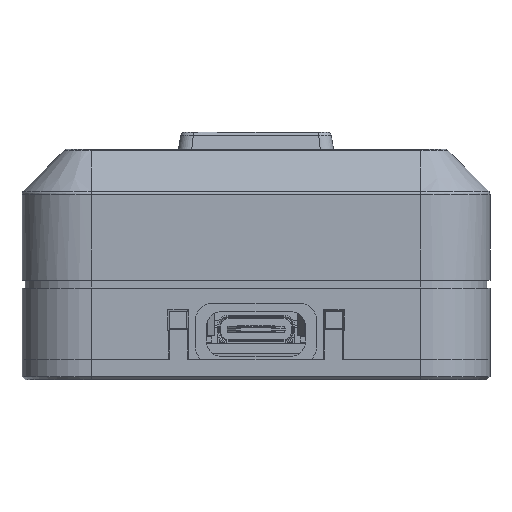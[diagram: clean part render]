
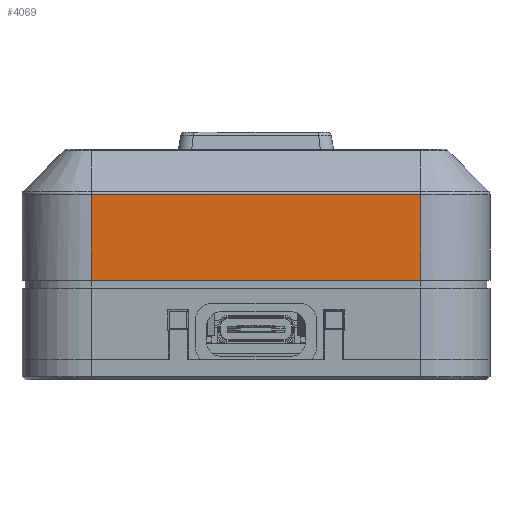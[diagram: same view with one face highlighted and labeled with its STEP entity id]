
A CAD part, front view. The second image highlights one B-rep face of the part: STEP entity #4069.
In plain terms, the highlighted planar face has unit normal (0, -1, 0).
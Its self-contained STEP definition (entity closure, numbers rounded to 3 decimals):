
#2156 = CYLINDRICAL_SURFACE('',#2157,0.5);
#2157 = AXIS2_PLACEMENT_3D('',#2158,#2159,#2160);
#2158 = CARTESIAN_POINT('',(19.,-23.5,21.393));
#2159 = DIRECTION('',(-1.,-0.,-0.));
#2160 = DIRECTION('',(0.,-1.,0.));
#3014 = VERTEX_POINT('',#3015);
#3015 = CARTESIAN_POINT('',(19.,-24.,21.393));
#3056 = CYLINDRICAL_SURFACE('',#3057,8.);
#3057 = AXIS2_PLACEMENT_3D('',#3058,#3059,#3060);
#3058 = CARTESIAN_POINT('',(19.,-16.,2.4));
#3059 = DIRECTION('',(0.,0.,1.));
#3060 = DIRECTION('',(1.,0.,-0.));
#3135 = VERTEX_POINT('',#3136);
#3136 = CARTESIAN_POINT('',(-19.,-24.,21.393));
#3160 = EDGE_CURVE('',#3014,#3135,#3161,.T.);
#3161 = SURFACE_CURVE('',#3162,(#3166,#3173),.PCURVE_S1.);
#3162 = LINE('',#3163,#3164);
#3163 = CARTESIAN_POINT('',(19.,-24.,21.393));
#3164 = VECTOR('',#3165,1.);
#3165 = DIRECTION('',(-1.,-0.,-0.));
#3166 = PCURVE('',#2156,#3167);
#3167 = DEFINITIONAL_REPRESENTATION('',(#3168),#3172);
#3168 = LINE('',#3169,#3170);
#3169 = CARTESIAN_POINT('',(0.,0.));
#3170 = VECTOR('',#3171,1.);
#3171 = DIRECTION('',(0.,1.));
#3172 = ( GEOMETRIC_REPRESENTATION_CONTEXT(2) 
PARAMETRIC_REPRESENTATION_CONTEXT() REPRESENTATION_CONTEXT('2D SPACE',''
  ) );
#3173 = PCURVE('',#3174,#3179);
#3174 = PLANE('',#3175);
#3175 = AXIS2_PLACEMENT_3D('',#3176,#3177,#3178);
#3176 = CARTESIAN_POINT('',(-27.,-24.,2.4));
#3177 = DIRECTION('',(0.,1.,0.));
#3178 = DIRECTION('',(0.,0.,1.));
#3179 = DEFINITIONAL_REPRESENTATION('',(#3180),#3184);
#3180 = LINE('',#3181,#3182);
#3181 = CARTESIAN_POINT('',(18.993,46.));
#3182 = VECTOR('',#3183,1.);
#3183 = DIRECTION('',(0.,-1.));
#3184 = ( GEOMETRIC_REPRESENTATION_CONTEXT(2) 
PARAMETRIC_REPRESENTATION_CONTEXT() REPRESENTATION_CONTEXT('2D SPACE',''
  ) );
#3301 = CYLINDRICAL_SURFACE('',#3302,8.);
#3302 = AXIS2_PLACEMENT_3D('',#3303,#3304,#3305);
#3303 = CARTESIAN_POINT('',(-19.,-16.,2.4));
#3304 = DIRECTION('',(0.,0.,1.));
#3305 = DIRECTION('',(-1.,-0.,0.));
#3973 = VERTEX_POINT('',#3974);
#3974 = CARTESIAN_POINT('',(19.,-24.,11.5));
#3989 = PLANE('',#3990);
#3990 = AXIS2_PLACEMENT_3D('',#3991,#3992,#3993);
#3991 = CARTESIAN_POINT('',(-27.5,-24.5,11.5));
#3992 = DIRECTION('',(0.,0.,1.));
#3993 = DIRECTION('',(1.,0.,0.));
#4001 = EDGE_CURVE('',#3973,#3014,#4002,.T.);
#4002 = SURFACE_CURVE('',#4003,(#4007,#4014),.PCURVE_S1.);
#4003 = LINE('',#4004,#4005);
#4004 = CARTESIAN_POINT('',(19.,-24.,2.4));
#4005 = VECTOR('',#4006,1.);
#4006 = DIRECTION('',(0.,0.,1.));
#4007 = PCURVE('',#3056,#4008);
#4008 = DEFINITIONAL_REPRESENTATION('',(#4009),#4013);
#4009 = LINE('',#4010,#4011);
#4010 = CARTESIAN_POINT('',(-1.571,0.));
#4011 = VECTOR('',#4012,1.);
#4012 = DIRECTION('',(-0.,1.));
#4013 = ( GEOMETRIC_REPRESENTATION_CONTEXT(2) 
PARAMETRIC_REPRESENTATION_CONTEXT() REPRESENTATION_CONTEXT('2D SPACE',''
  ) );
#4014 = PCURVE('',#3174,#4015);
#4015 = DEFINITIONAL_REPRESENTATION('',(#4016),#4020);
#4016 = LINE('',#4017,#4018);
#4017 = CARTESIAN_POINT('',(0.,46.));
#4018 = VECTOR('',#4019,1.);
#4019 = DIRECTION('',(1.,0.));
#4020 = ( GEOMETRIC_REPRESENTATION_CONTEXT(2) 
PARAMETRIC_REPRESENTATION_CONTEXT() REPRESENTATION_CONTEXT('2D SPACE',''
  ) );
#4069 = ADVANCED_FACE('',(#4070),#3174,.F.);
#4070 = FACE_BOUND('',#4071,.F.);
#4071 = EDGE_LOOP('',(#4072,#4093,#4114,#4115));
#4072 = ORIENTED_EDGE('',*,*,#4073,.F.);
#4073 = EDGE_CURVE('',#4074,#3973,#4076,.T.);
#4074 = VERTEX_POINT('',#4075);
#4075 = CARTESIAN_POINT('',(-19.,-24.,11.5));
#4076 = SURFACE_CURVE('',#4077,(#4081,#4087),.PCURVE_S1.);
#4077 = LINE('',#4078,#4079);
#4078 = CARTESIAN_POINT('',(-27.25,-24.,11.5));
#4079 = VECTOR('',#4080,1.);
#4080 = DIRECTION('',(1.,0.,0.));
#4081 = PCURVE('',#3174,#4082);
#4082 = DEFINITIONAL_REPRESENTATION('',(#4083),#4086);
#4083 = B_SPLINE_CURVE_WITH_KNOTS('',1,(#4084,#4085),.UNSPECIFIED.,.F.,
  .F.,(2,2),(8.25,46.25),.PIECEWISE_BEZIER_KNOTS.);
#4084 = CARTESIAN_POINT('',(9.1,8.));
#4085 = CARTESIAN_POINT('',(9.1,46.));
#4086 = ( GEOMETRIC_REPRESENTATION_CONTEXT(2) 
PARAMETRIC_REPRESENTATION_CONTEXT() REPRESENTATION_CONTEXT('2D SPACE',''
  ) );
#4087 = PCURVE('',#3989,#4088);
#4088 = DEFINITIONAL_REPRESENTATION('',(#4089),#4092);
#4089 = B_SPLINE_CURVE_WITH_KNOTS('',1,(#4090,#4091),.UNSPECIFIED.,.F.,
  .F.,(2,2),(8.25,46.25),.PIECEWISE_BEZIER_KNOTS.);
#4090 = CARTESIAN_POINT('',(8.5,0.5));
#4091 = CARTESIAN_POINT('',(46.5,0.5));
#4092 = ( GEOMETRIC_REPRESENTATION_CONTEXT(2) 
PARAMETRIC_REPRESENTATION_CONTEXT() REPRESENTATION_CONTEXT('2D SPACE',''
  ) );
#4093 = ORIENTED_EDGE('',*,*,#4094,.T.);
#4094 = EDGE_CURVE('',#4074,#3135,#4095,.T.);
#4095 = SURFACE_CURVE('',#4096,(#4100,#4107),.PCURVE_S1.);
#4096 = LINE('',#4097,#4098);
#4097 = CARTESIAN_POINT('',(-19.,-24.,2.4));
#4098 = VECTOR('',#4099,1.);
#4099 = DIRECTION('',(0.,0.,1.));
#4100 = PCURVE('',#3174,#4101);
#4101 = DEFINITIONAL_REPRESENTATION('',(#4102),#4106);
#4102 = LINE('',#4103,#4104);
#4103 = CARTESIAN_POINT('',(0.,8.));
#4104 = VECTOR('',#4105,1.);
#4105 = DIRECTION('',(1.,0.));
#4106 = ( GEOMETRIC_REPRESENTATION_CONTEXT(2) 
PARAMETRIC_REPRESENTATION_CONTEXT() REPRESENTATION_CONTEXT('2D SPACE',''
  ) );
#4107 = PCURVE('',#3301,#4108);
#4108 = DEFINITIONAL_REPRESENTATION('',(#4109),#4113);
#4109 = LINE('',#4110,#4111);
#4110 = CARTESIAN_POINT('',(1.571,0.));
#4111 = VECTOR('',#4112,1.);
#4112 = DIRECTION('',(0.,1.));
#4113 = ( GEOMETRIC_REPRESENTATION_CONTEXT(2) 
PARAMETRIC_REPRESENTATION_CONTEXT() REPRESENTATION_CONTEXT('2D SPACE',''
  ) );
#4114 = ORIENTED_EDGE('',*,*,#3160,.F.);
#4115 = ORIENTED_EDGE('',*,*,#4001,.F.);
